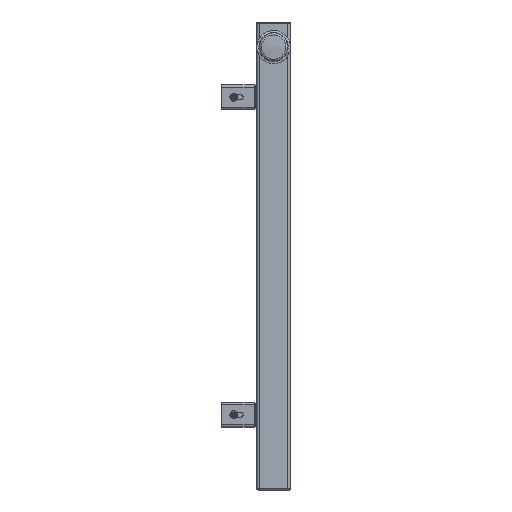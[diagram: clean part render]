
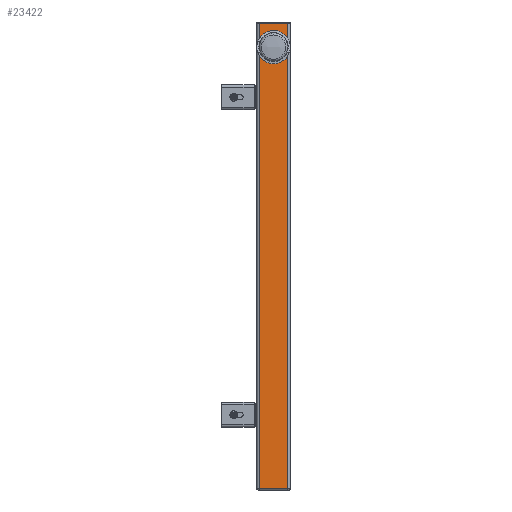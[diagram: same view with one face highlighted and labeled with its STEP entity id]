
A CAD part, left-side view. The second image highlights one B-rep face of the part: STEP entity #23422.
In plain terms, the highlighted planar face has unit normal (-1, 0, 0).
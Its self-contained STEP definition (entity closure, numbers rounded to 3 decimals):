
#22799=CARTESIAN_POINT('',(-40.,-17.0,1.5));
#22800=VERTEX_POINT('',#22799);
#22843=CARTESIAN_POINT('',(-40.,17.0,1.5));
#22844=VERTEX_POINT('',#22843);
#22861=CARTESIAN_POINT('',(-40.,-17.0,1.5));
#22862=DIRECTION('',(0.0,1.0,0.0));
#22863=VECTOR('',#22862,34.0);
#22864=LINE('',#22861,#22863);
#22865=EDGE_CURVE('',#22800,#22844,#22864,.T.);
#23369=CARTESIAN_POINT('',(-40.,17.0,558.5));
#23370=VERTEX_POINT('',#23369);
#23371=CARTESIAN_POINT('',(-40.,17.0,1.5));
#23372=DIRECTION('',(0.0,0.0,1.0));
#23373=VECTOR('',#23372,557.0);
#23374=LINE('',#23371,#23373);
#23375=EDGE_CURVE('',#22844,#23370,#23374,.T.);
#23388=CARTESIAN_POINT('',(-40.,-17.0,0.0));
#23389=DIRECTION('',(-1.0,0.0,0.0));
#23390=DIRECTION('',(0.0,0.0,1.0));
#23391=AXIS2_PLACEMENT_3D('',#23388,#23389,#23390);
#23392=PLANE('',#23391);
#23393=ORIENTED_EDGE('',*,*,#22865,.F.);
#23394=CARTESIAN_POINT('',(-40.,-17.0,558.5));
#23395=VERTEX_POINT('',#23394);
#23396=CARTESIAN_POINT('',(-40.,-17.0,1.5));
#23397=DIRECTION('',(0.0,0.0,1.0));
#23398=VECTOR('',#23397,557.0);
#23399=LINE('',#23396,#23398);
#23400=EDGE_CURVE('',#22800,#23395,#23399,.T.);
#23401=ORIENTED_EDGE('',*,*,#23400,.T.);
#23402=CARTESIAN_POINT('',(-40.,17.,558.5));
#23403=DIRECTION('',(0.0,-1.0,0.0));
#23404=VECTOR('',#23403,34.0);
#23405=LINE('',#23402,#23404);
#23406=EDGE_CURVE('',#23370,#23395,#23405,.T.);
#23407=ORIENTED_EDGE('',*,*,#23406,.F.);
#23408=ORIENTED_EDGE('',*,*,#23375,.F.);
#23409=EDGE_LOOP('',(#23393,#23401,#23407,#23408));
#23410=FACE_OUTER_BOUND('',#23409,.T.);
#23411=CARTESIAN_POINT('',(-40.,0.,545.0));
#23412=VERTEX_POINT('',#23411);
#23413=CARTESIAN_POINT('',(-40.,0.0,530.0));
#23414=DIRECTION('',(1.0,0.0,0.0));
#23415=DIRECTION('',(0.0,0.0,-1.0));
#23416=AXIS2_PLACEMENT_3D('',#23413,#23414,#23415);
#23417=CIRCLE('',#23416,15.0);
#23418=EDGE_CURVE('',#23412,#23412,#23417,.T.);
#23419=ORIENTED_EDGE('',*,*,#23418,.T.);
#23420=EDGE_LOOP('',(#23419));
#23421=FACE_BOUND('',#23420,.T.);
#23422=ADVANCED_FACE('',(#23410,#23421),#23392,.T.);
